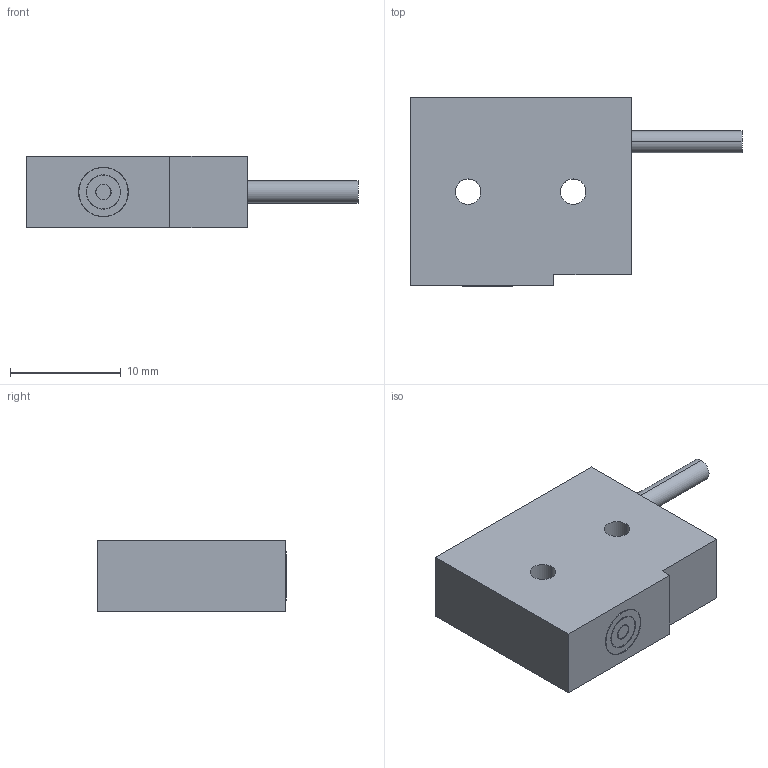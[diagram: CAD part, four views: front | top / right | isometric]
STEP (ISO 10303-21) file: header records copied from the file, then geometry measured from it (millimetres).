
FILE_DESCRIPTION (( 'STEP AP203' ), '1' );
FILE_NAME ('Q6-5.step', '2015-09-09T14:05:40', ( 'Turck User' ), ( '' ), 'SwSTEP 2.0', 'SolidWorks 2014', '' );
FILE_SCHEMA (( 'CONFIG_CONTROL_DESIGN' ));
Length unit declared in the file: millimetre
Products named in the file (2): Q6-5
Bounding box: 30 x 17.05 x 6.5 mm (x, y, z)
Volume: 2141.9 mm3; surface area: 1290 mm2
Topology: 1 solids, 1 shells, 33 faces, 72 edges, 48 vertices
Faces by surface type: cylinder 18, plane 15
Entity records: 1085 total; most frequent: DIRECTION 178, CARTESIAN_POINT 155, ORIENTED_EDGE 144, EDGE_CURVE 72, AXIS2_PLACEMENT_3D 71, VERTEX_POINT 48, EDGE_LOOP 44, VECTOR 36
